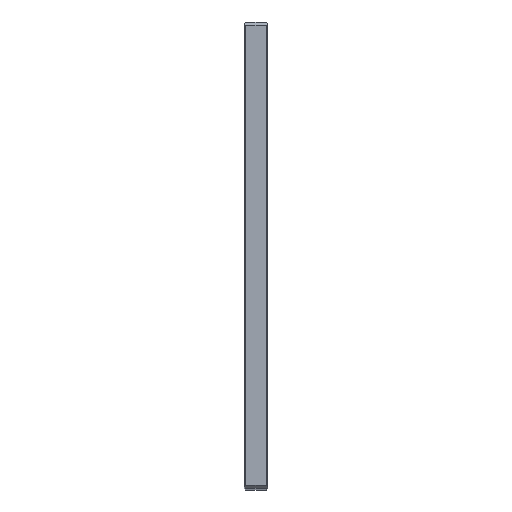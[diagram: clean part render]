
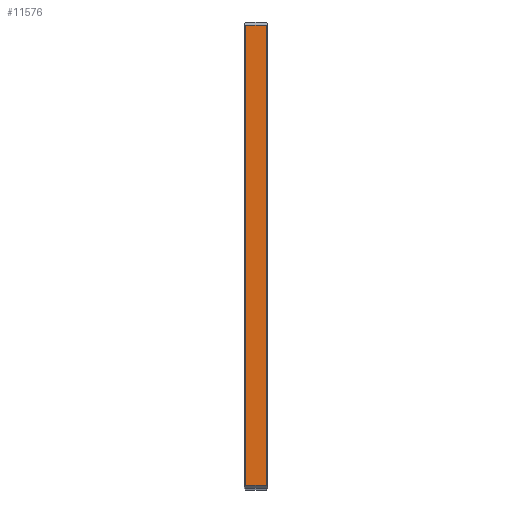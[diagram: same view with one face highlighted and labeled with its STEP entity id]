
A CAD part, top view. The second image highlights one B-rep face of the part: STEP entity #11576.
In plain terms, the highlighted planar face has unit normal (0, 0, 1).
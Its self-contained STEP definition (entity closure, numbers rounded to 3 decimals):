
#3490=FACE_OUTER_BOUND($,#4953,.T.);
#4953=EDGE_LOOP($,(#9787,#9788,#9789,#9790));
#6696=LINE($,#18629,#6736);
#6704=LINE($,#19222,#6744);
#6709=LINE($,#19232,#6749);
#6727=LINE($,#19844,#6767);
#6736=VECTOR($,#14502,13.);
#6744=VECTOR($,#15092,296.);
#6749=VECTOR($,#15099,13.);
#6767=VECTOR($,#15711,296.);
#6775=VERTEX_POINT($,#18626);
#6776=VERTEX_POINT($,#18628);
#7070=VERTEX_POINT($,#19220);
#7074=VERTEX_POINT($,#19230);
#7956=EDGE_CURVE($,#6775,#6776,#6696,.T.);
#8253=EDGE_CURVE($,#7070,#6775,#6704,.T.);
#8258=EDGE_CURVE($,#7074,#7070,#6709,.T.);
#8565=EDGE_CURVE($,#6776,#7074,#6727,.T.);
#9787=ORIENTED_EDGE($,*,*,#8253,.F.);
#9788=ORIENTED_EDGE($,*,*,#8258,.F.);
#9789=ORIENTED_EDGE($,*,*,#8565,.F.);
#9790=ORIENTED_EDGE($,*,*,#7956,.F.);
#11553=PLANE($,#13042);
#11576=ADVANCED_FACE($,(#3490),#11553,.T.);
#13042=AXIS2_PLACEMENT_3D($,#19849,#15716,#15717);
#14502=DIRECTION($,(1.,0.,0.));
#15092=DIRECTION($,(0.,1.,0.));
#15099=DIRECTION($,(-1.,0.,0.));
#15711=DIRECTION($,(0.,-1.,0.));
#15716=DIRECTION('center_axis',(0.,0.,1.));
#15717=DIRECTION('ref_axis',(0.,-1.,0.));
#18626=CARTESIAN_POINT('',(1.,298.,600.));
#18628=CARTESIAN_POINT('',(14.,298.,600.));
#18629=CARTESIAN_POINT($,(0.,298.,600.));
#19220=CARTESIAN_POINT('',(1.,2.,600.));
#19222=CARTESIAN_POINT($,(1.,225.,600.));
#19230=CARTESIAN_POINT('',(14.,2.,600.));
#19232=CARTESIAN_POINT($,(0.,2.,600.));
#19844=CARTESIAN_POINT($,(14.,225.,600.));
#19849=CARTESIAN_POINT('Origin',(0.,300.,600.));
